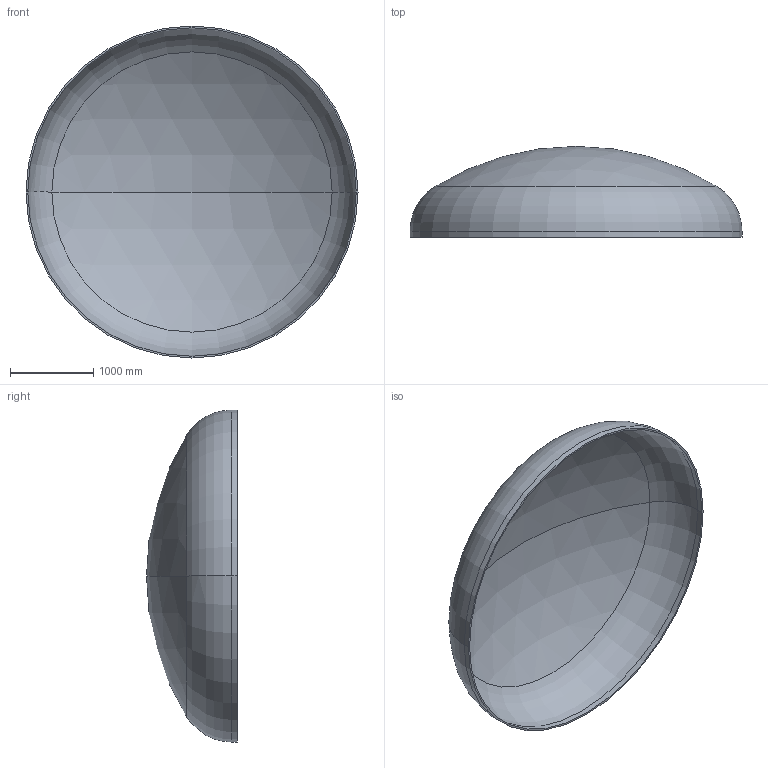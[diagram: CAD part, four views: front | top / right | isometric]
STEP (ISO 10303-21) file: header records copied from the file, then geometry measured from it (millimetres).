
FILE_DESCRIPTION (( 'STEP AP203' ), '1' );
FILE_NAME ('DIN 28013 Korbbogenform_-_Boden DIN 28013 - 4000 x 70 - I - s=21.step', '2016-07-01T22:08:30', ( '' ), ( '' ), 'SwSTEP 2.0', 'SolidWorks 2013', '' );
FILE_SCHEMA (( 'CONFIG_CONTROL_DESIGN' ));
Length unit declared in the file: millimetre
Products named in the file (1): DIN 28013 Korbbogenform_-_Boden DIN 28013 - 4000 x 70 - I - s=21
Bounding box: 4000 x 1095.16 x 4000 mm (x, y, z)
Volume: 381233423.5 mm3; surface area: 36571362.8 mm2
Topology: 1 solids, 1 shells, 13 faces, 24 edges, 14 vertices
Faces by surface type: torus 4, cylinder 4, sphere 4, plane 1
Entity records: 407 total; most frequent: DIRECTION 72, CARTESIAN_POINT 52, ORIENTED_EDGE 48, AXIS2_PLACEMENT_3D 34, EDGE_CURVE 24, CIRCLE 20, VERTEX_POINT 14, EDGE_LOOP 14
